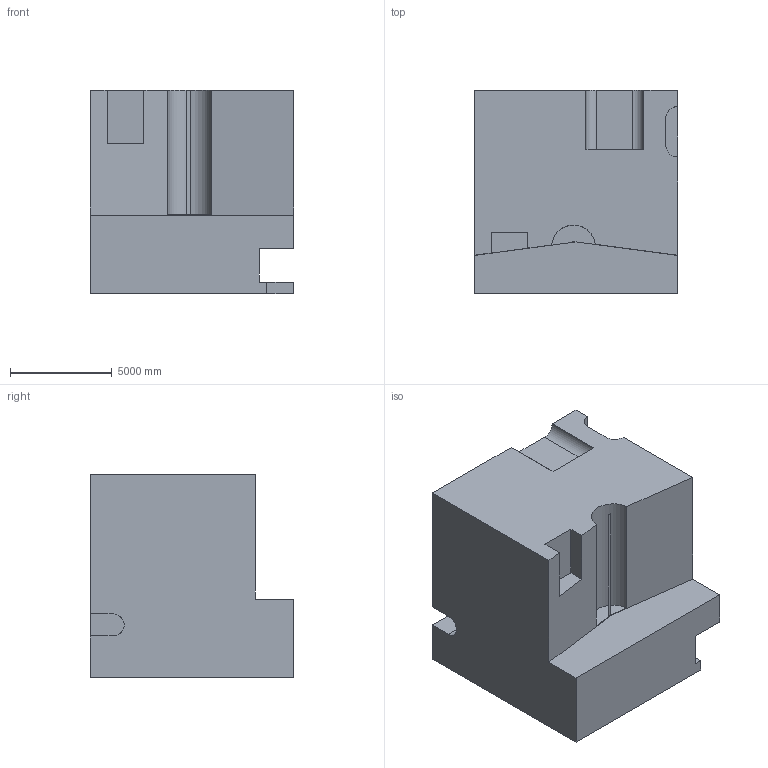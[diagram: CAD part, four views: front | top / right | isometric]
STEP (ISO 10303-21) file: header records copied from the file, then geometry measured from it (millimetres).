
FILE_DESCRIPTION (( 'STEP AP203' ), '1' );
FILE_NAME ('1904.STEP', '2022-08-23T09:17:55', ( 'user' ), ( '' ), 'SwSTEP 2.0', 'SolidWorks 2021', '' );
FILE_SCHEMA (( 'CONFIG_CONTROL_DESIGN' ));
Length unit declared in the file: centimetre
Products named in the file (1): 1904
Bounding box: 10000 x 10000 x 10000 mm (x, y, z)
Volume: 753689827922.5 mm3; surface area: 709388091.4 mm2
Topology: 1 solids, 1 shells, 44 faces, 123 edges, 82 vertices
Faces by surface type: plane 34, cylinder 10
Entity records: 1758 total; most frequent: CARTESIAN_POINT 524, ORIENTED_EDGE 246, DIRECTION 231, EDGE_CURVE 123, LINE 101, VECTOR 101, VERTEX_POINT 82, AXIS2_PLACEMENT_3D 65
